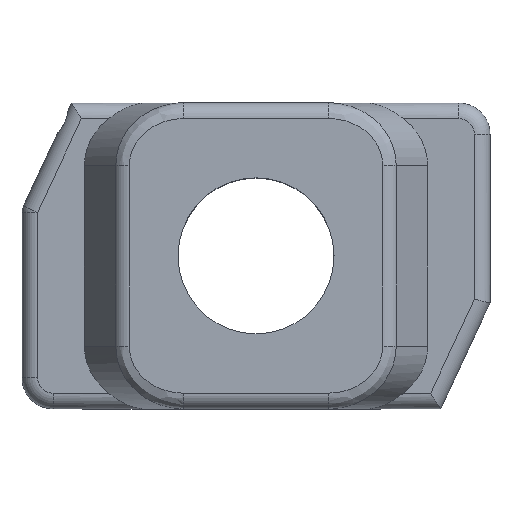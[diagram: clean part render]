
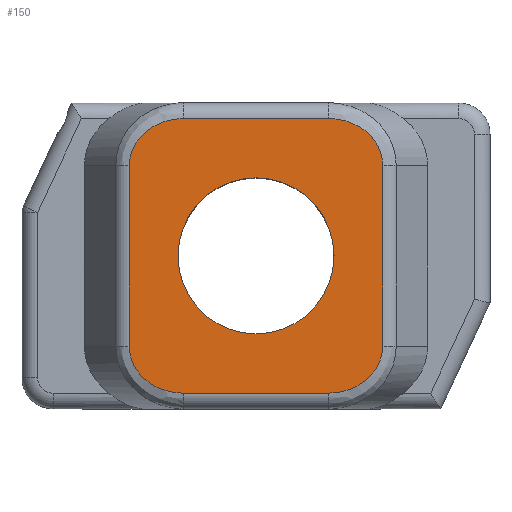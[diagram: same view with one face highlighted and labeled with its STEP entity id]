
A CAD part, top view. The second image highlights one B-rep face of the part: STEP entity #150.
In plain terms, the highlighted planar face has unit normal (0, 0, 1).
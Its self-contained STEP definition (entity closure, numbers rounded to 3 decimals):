
#150=ADVANCED_FACE('',(#338,#339),#340,.T.);
#338=FACE_BOUND('',#744,.T.);
#339=FACE_OUTER_BOUND('',#745,.T.);
#340=PLANE('',#746);
#744=EDGE_LOOP('',(#1281));
#745=EDGE_LOOP('',(#1282,#1283,#1284,#1285,#1286,#1287,#1288,#1289));
#746=AXIS2_PLACEMENT_3D('',#1290,#1291,#1292);
#1281=ORIENTED_EDGE('',*,*,#1773,.T.);
#1282=ORIENTED_EDGE('',*,*,#1774,.T.);
#1283=ORIENTED_EDGE('',*,*,#1775,.T.);
#1284=ORIENTED_EDGE('',*,*,#1776,.T.);
#1285=ORIENTED_EDGE('',*,*,#1769,.T.);
#1286=ORIENTED_EDGE('',*,*,#1777,.T.);
#1287=ORIENTED_EDGE('',*,*,#1778,.T.);
#1288=ORIENTED_EDGE('',*,*,#1779,.T.);
#1289=ORIENTED_EDGE('',*,*,#1780,.T.);
#1290=CARTESIAN_POINT('',(-7.5,-4.9,0.));
#1291=DIRECTION('',(0.0,0.0,1.0));
#1292=DIRECTION('',(1.0,0.0,0.0));
#1769=EDGE_CURVE('',#2063,#2061,#2064,.T.);
#1773=EDGE_CURVE('',#2069,#2069,#2070,.T.);
#1774=EDGE_CURVE('',#2071,#2072,#2073,.F.);
#1775=EDGE_CURVE('',#2072,#2074,#2075,.T.);
#1776=EDGE_CURVE('',#2074,#2063,#2076,.T.);
#1777=EDGE_CURVE('',#2061,#2077,#2078,.T.);
#1778=EDGE_CURVE('',#2077,#2079,#2080,.T.);
#1779=EDGE_CURVE('',#2079,#2081,#2082,.T.);
#1780=EDGE_CURVE('',#2081,#2071,#2083,.T.);
#2061=VERTEX_POINT('',#2446);
#2063=VERTEX_POINT('',#2448);
#2064=ELLIPSE('',#2449,1.73,1.5);
#2069=VERTEX_POINT('',#2454);
#2070=CIRCLE('',#2455,2.5);
#2071=VERTEX_POINT('',#2456);
#2072=VERTEX_POINT('',#2457);
#2073=LINE('',#2458,#2459);
#2074=VERTEX_POINT('',#2460);
#2075=ELLIPSE('',#2461,1.73,1.5);
#2076=LINE('',#2462,#2463);
#2077=VERTEX_POINT('',#2464);
#2078=LINE('',#2465,#2466);
#2079=VERTEX_POINT('',#2467);
#2080=ELLIPSE('',#2468,1.73,1.5);
#2081=VERTEX_POINT('',#2469);
#2082=LINE('',#2470,#2471);
#2083=ELLIPSE('',#2472,1.73,1.5);
#2446=CARTESIAN_POINT('',(4.061,-2.9,0.));
#2448=CARTESIAN_POINT('',(2.33,-4.4,0.));
#2449=AXIS2_PLACEMENT_3D('',#2826,#2827,#2828);
#2454=CARTESIAN_POINT('',(0.,-2.5,0.));
#2455=AXIS2_PLACEMENT_3D('',#2835,#2836,#2837);
#2456=CARTESIAN_POINT('',(-4.061,2.9,0.));
#2457=CARTESIAN_POINT('',(-4.061,-2.9,0.));
#2458=CARTESIAN_POINT('',(-4.061,-2.9,0.));
#2459=VECTOR('',#2838,1.0);
#2460=CARTESIAN_POINT('',(-2.33,-4.4,0.));
#2461=AXIS2_PLACEMENT_3D('',#2839,#2840,#2841);
#2462=CARTESIAN_POINT('',(2.043,-4.4,0.));
#2463=VECTOR('',#2842,1.0);
#2464=CARTESIAN_POINT('',(4.061,2.9,0.));
#2465=CARTESIAN_POINT('',(4.061,2.9,0.));
#2466=VECTOR('',#2843,1.0);
#2467=CARTESIAN_POINT('',(2.33,4.4,0.));
#2468=AXIS2_PLACEMENT_3D('',#2844,#2845,#2846);
#2469=CARTESIAN_POINT('',(-2.33,4.4,0.));
#2470=CARTESIAN_POINT('',(-2.043,4.4,0.));
#2471=VECTOR('',#2847,1.0);
#2472=AXIS2_PLACEMENT_3D('',#2848,#2849,#2850);
#2826=CARTESIAN_POINT('',(2.33,-2.9,0.));
#2827=DIRECTION('',(0.0,0.0,1.0));
#2828=DIRECTION('',(-1.0,0.0,0.0));
#2835=CARTESIAN_POINT('',(0.,0.,0.));
#2836=DIRECTION('',(0.0,0.0,-1.0));
#2837=DIRECTION('',(0.0,-1.0,0.0));
#2838=DIRECTION('',(0.0,1.0,0.0));
#2839=CARTESIAN_POINT('',(-2.33,-2.9,0.));
#2840=DIRECTION('',(0.0,0.0,1.0));
#2841=DIRECTION('',(-1.0,0.0,0.0));
#2842=DIRECTION('',(1.0,0.0,0.0));
#2843=DIRECTION('',(0.0,1.0,0.0));
#2844=CARTESIAN_POINT('',(2.33,2.9,0.));
#2845=DIRECTION('',(0.0,0.0,1.0));
#2846=DIRECTION('',(-1.0,0.0,0.0));
#2847=DIRECTION('',(-1.0,0.0,0.0));
#2848=CARTESIAN_POINT('',(-2.33,2.9,0.));
#2849=DIRECTION('',(0.0,0.0,1.0));
#2850=DIRECTION('',(-1.0,0.0,0.0));
